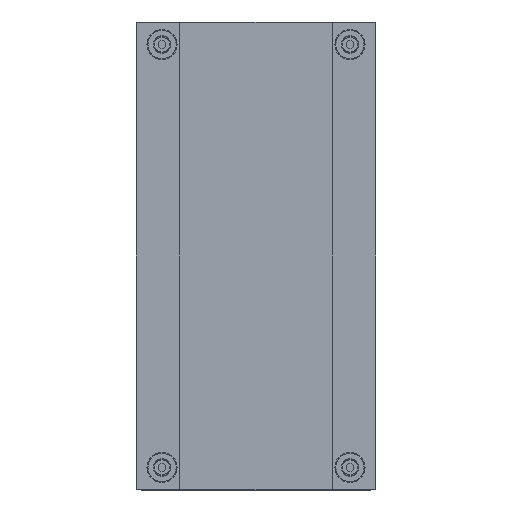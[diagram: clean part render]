
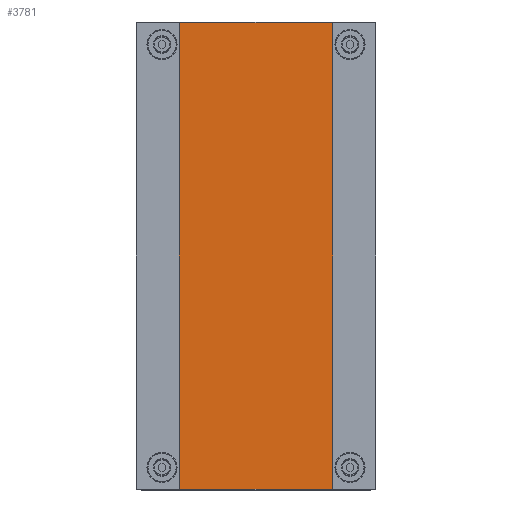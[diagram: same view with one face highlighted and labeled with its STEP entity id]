
A CAD part, front view. The second image highlights one B-rep face of the part: STEP entity #3781.
In plain terms, the highlighted planar face has unit normal (0, -1, 0).
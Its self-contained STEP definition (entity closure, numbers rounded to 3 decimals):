
#770 = CARTESIAN_POINT ( 'NONE',  ( 84.5, -20., 248. ) ) ;
#1222 = LINE ( 'NONE', #1223, #1224 ) ;
#1223 = CARTESIAN_POINT ( 'NONE',  ( 84.5, -20., 248. ) ) ;
#1224 = VECTOR ( 'NONE', #1225, 1000. ) ;
#1225 = DIRECTION ( 'NONE',  ( 0., 0., -1. ) ) ;
#1644 = CARTESIAN_POINT ( 'NONE',  ( 84.5, -20., -248. ) ) ;
#2513 = CARTESIAN_POINT ( 'NONE',  ( -84.5, -20., -248. ) ) ;
#2933 = LINE ( 'NONE', #2934, #2935 ) ;
#2934 = CARTESIAN_POINT ( 'NONE',  ( -84.5, -20., 248. ) ) ;
#2935 = VECTOR ( 'NONE', #2936, 1000. ) ;
#2936 = DIRECTION ( 'NONE',  ( 0., 0., -1. ) ) ;
#3027 = CARTESIAN_POINT ( 'NONE',  ( -84.5, -20., 248. ) ) ;
#3781 = ADVANCED_FACE ( 'NONE', ( #8251 ), #8252, .F. ) ;
#4512 = VERTEX_POINT ( 'NONE', #770 ) ;
#4733 = EDGE_CURVE ( 'NONE', #4512, #4960, #1222, .T. ) ;
#4960 = VERTEX_POINT ( 'NONE', #1644 ) ;
#5416 = VERTEX_POINT ( 'NONE', #2513 ) ;
#5692 = EDGE_CURVE ( 'NONE', #5765, #5416, #2933, .T. ) ;
#5765 = VERTEX_POINT ( 'NONE', #3027 ) ;
#6669 = EDGE_LOOP ( 'NONE', ( #7206, #8141, #8665, #9506 ) ) ;
#7206 = ORIENTED_EDGE ( 'NONE', *, *, #7589, .T. ) ;
#7589 = EDGE_CURVE ( 'NONE', #5416, #4960, #9144, .T. ) ;
#8141 = ORIENTED_EDGE ( 'NONE', *, *, #4733, .F. ) ;
#8251 = FACE_OUTER_BOUND ( 'NONE', #6669, .T. ) ;
#8252 = PLANE ( 'NONE',  #8253 ) ;
#8253 = AXIS2_PLACEMENT_3D ( 'NONE', #8254, #8255, #8256 ) ;
#8254 = CARTESIAN_POINT ( 'NONE',  ( 84.5, -20., 248. ) ) ;
#8255 = DIRECTION ( 'NONE',  ( 0., 1., 0. ) ) ;
#8256 = DIRECTION ( 'NONE',  ( -1., 0., 0. ) ) ;
#8665 = ORIENTED_EDGE ( 'NONE', *, *, #8988, .F. ) ;
#8988 = EDGE_CURVE ( 'NONE', #5765, #4512, #10116, .T. ) ;
#9144 = LINE ( 'NONE', #9148, #9149 ) ;
#9148 = CARTESIAN_POINT ( 'NONE',  ( 84.5, -20., -248. ) ) ;
#9149 = VECTOR ( 'NONE', #9150, 1000. ) ;
#9150 = DIRECTION ( 'NONE',  ( 1., 0., 0. ) ) ;
#9506 = ORIENTED_EDGE ( 'NONE', *, *, #5692, .T. ) ;
#10116 = LINE ( 'NONE', #10117, #10118 ) ;
#10117 = CARTESIAN_POINT ( 'NONE',  ( 84.5, -20., 248. ) ) ;
#10118 = VECTOR ( 'NONE', #10119, 1000. ) ;
#10119 = DIRECTION ( 'NONE',  ( 1., 0., 0. ) ) ;
